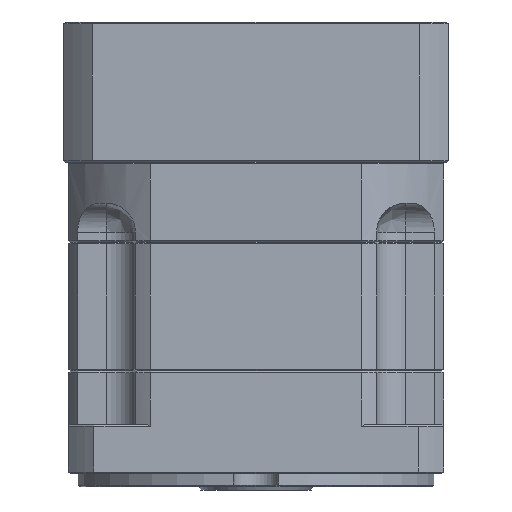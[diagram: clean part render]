
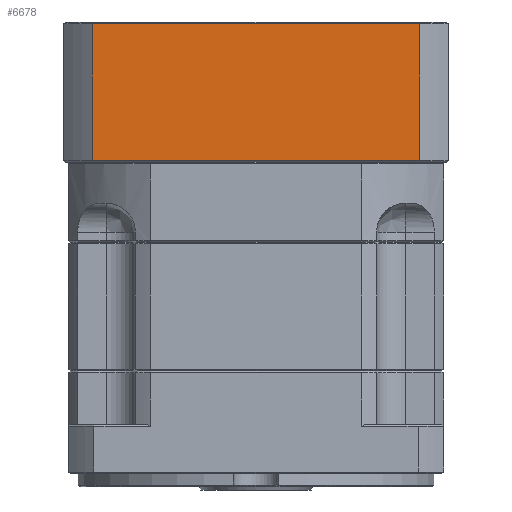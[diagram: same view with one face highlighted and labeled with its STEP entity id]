
A CAD part, front view. The second image highlights one B-rep face of the part: STEP entity #6678.
In plain terms, the highlighted planar face has unit normal (0, -1, 0).
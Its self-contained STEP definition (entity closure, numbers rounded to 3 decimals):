
#3101 = EDGE_CURVE ( 'NONE', #25312, #126310, #120980, .T. ) ;
#6678 = ADVANCED_FACE ( 'NONE', ( #82914 ), #31367, .F. ) ;
#11680 = CARTESIAN_POINT ( 'NONE',  ( -4.718, -6.863, 2.474 ) ) ;
#16962 = ORIENTED_EDGE ( 'NONE', *, *, #133073, .F. ) ;
#25312 = VERTEX_POINT ( 'NONE', #84711 ) ;
#31367 = PLANE ( 'NONE',  #44264 ) ;
#34735 = DIRECTION ( 'NONE',  ( 1., 0., 0. ) ) ;
#37598 = EDGE_CURVE ( 'NONE', #43137, #126310, #81523, .T. ) ;
#40787 = CARTESIAN_POINT ( 'NONE',  ( 95.786, -6.863, -261.421 ) ) ;
#43137 = VERTEX_POINT ( 'NONE', #86399 ) ;
#44264 = AXIS2_PLACEMENT_3D ( 'NONE', #72056, #103685, #114941 ) ;
#54794 = ORIENTED_EDGE ( 'NONE', *, *, #3101, .F. ) ;
#55169 = LINE ( 'NONE', #128054, #114940 ) ;
#66517 = CARTESIAN_POINT ( 'NONE',  ( 95.786, -6.863, -39.526 ) ) ;
#67234 = CARTESIAN_POINT ( 'NONE',  ( 104.534, -6.863, -39.526 ) ) ;
#68524 = VECTOR ( 'NONE', #34735, 1000. ) ;
#71822 = DIRECTION ( 'NONE',  ( 1., 0., 0. ) ) ;
#72056 = CARTESIAN_POINT ( 'NONE',  ( 104.534, -6.863, 2.974 ) ) ;
#73189 = CARTESIAN_POINT ( 'NONE',  ( 104.534, -6.863, 2.474 ) ) ;
#73196 = EDGE_LOOP ( 'NONE', ( #74498, #54794, #16962, #103473 ) ) ;
#74498 = ORIENTED_EDGE ( 'NONE', *, *, #37598, .T. ) ;
#78011 = LINE ( 'NONE', #73189, #102245 ) ;
#80825 = EDGE_CURVE ( 'NONE', #43137, #127982, #55169, .T. ) ;
#81523 = LINE ( 'NONE', #67234, #68524 ) ;
#82914 = FACE_OUTER_BOUND ( 'NONE', #73196, .T. ) ;
#84711 = CARTESIAN_POINT ( 'NONE',  ( 95.786, -6.863, 2.474 ) ) ;
#86399 = CARTESIAN_POINT ( 'NONE',  ( -4.718, -6.863, -39.526 ) ) ;
#87104 = DIRECTION ( 'NONE',  ( 0., 0., 1. ) ) ;
#92296 = DIRECTION ( 'NONE',  ( 0., 0., -1. ) ) ;
#102245 = VECTOR ( 'NONE', #71822, 1000. ) ;
#103473 = ORIENTED_EDGE ( 'NONE', *, *, #80825, .F. ) ;
#103685 = DIRECTION ( 'NONE',  ( 0., 1., 0. ) ) ;
#114940 = VECTOR ( 'NONE', #87104, 1000. ) ;
#114941 = DIRECTION ( 'NONE',  ( -1., 0., 0. ) ) ;
#120980 = LINE ( 'NONE', #40787, #125723 ) ;
#125723 = VECTOR ( 'NONE', #92296, 1000. ) ;
#126310 = VERTEX_POINT ( 'NONE', #66517 ) ;
#127982 = VERTEX_POINT ( 'NONE', #11680 ) ;
#128054 = CARTESIAN_POINT ( 'NONE',  ( -4.718, -6.863, 2.974 ) ) ;
#133073 = EDGE_CURVE ( 'NONE', #127982, #25312, #78011, .T. ) ;
